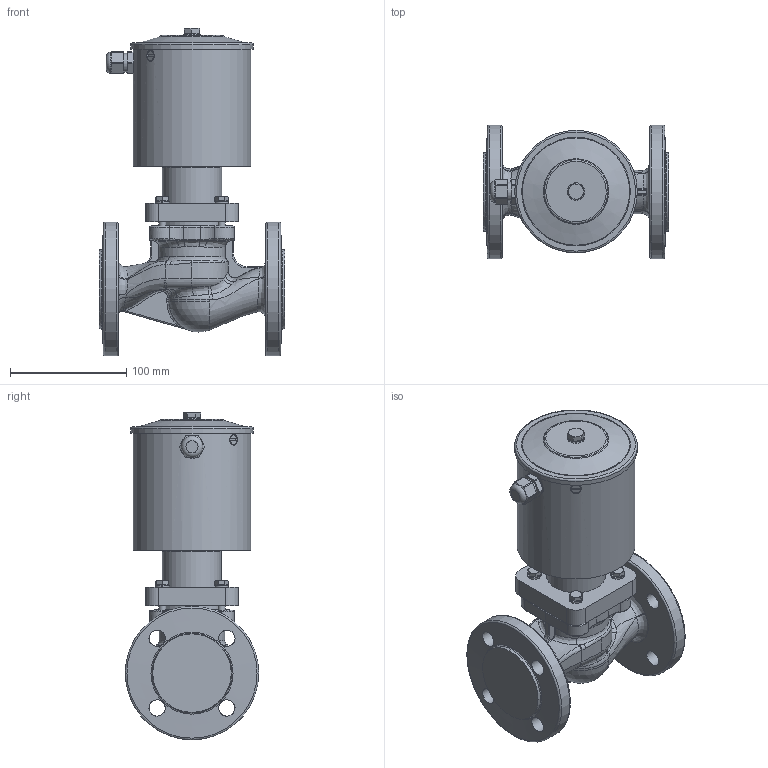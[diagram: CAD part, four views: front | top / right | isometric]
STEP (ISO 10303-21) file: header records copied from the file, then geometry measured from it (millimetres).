
FILE_DESCRIPTION((''),'2;1');
FILE_NAME('D:\CAD-Download Local\DN 25\02-EVA 10N-4.stp','2011-04-08T08:55:24',('lh'),(''),'Autodesk Inventor 2008','Autodesk Inventor 2008','');
FILE_SCHEMA(('AUTOMOTIVE_DESIGN { 1 0 10303 214 1 1 1 1 }'));
Length unit declared in the file: millimetre
Products named in the file (1): Bauteil4
Bounding box: 160 x 115 x 282.3 mm (x, y, z)
Volume: 1689590.5 mm3; surface area: 164065.9 mm2
Topology: 1 solids, 1 shells, 441 faces, 1055 edges, 637 vertices
Faces by surface type: bspline 163, plane 122, cylinder 87, cone 45, torus 23, sphere 1
Full cylindrical faces by diameter (mm): 6 x8, 8.88 x4, 11.63 x1, 14 x4, 16 x2, 20 x1, 43 x1, 51 x1, 55 x1, 55.8 x1, 101.6 x1, 105.6 x1, 115 x1
Entity records: 27898 total; most frequent: CARTESIAN_POINT 18658, ORIENTED_EDGE 1900, DIRECTION 1540, EDGE_CURVE 950, AXIS2_PLACEMENT_3D 662, VERTEX_POINT 602, EDGE_LOOP 562, FACE_OUTER_BOUND 440
